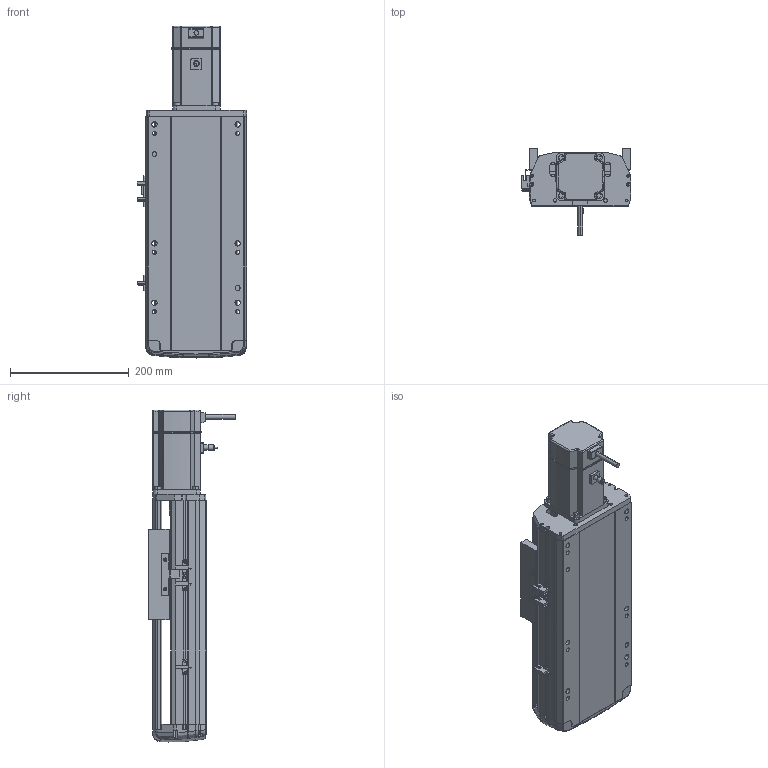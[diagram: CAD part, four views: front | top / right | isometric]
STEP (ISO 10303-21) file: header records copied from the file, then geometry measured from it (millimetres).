
FILE_DESCRIPTION (( 'STEP AP214' ), '1' );
FILE_NAME ('RTH17-XX-150-E-M75-C4.STEP', '2025-10-24T09:34:40', ( '' ), ( '' ), 'SwSTEP 2.0', 'SolidWorks 2018', '' );
FILE_SCHEMA (( 'AUTOMOTIVE_DESIGN' ));
Length unit declared in the file: millimetre
Products named in the file (9): N_OMRON EE-SX672 換覜ん^RTH17-XX-XX-E-M75-C4ㄗ源最宒ㄘ; RTH17-XX-150-E-M75-C4; N_RTH17-GY-001P^RTH17-XX-XX-E-M75-C4（方程式）; N_RTH-L-012 感应片(外置)^RTH17-XX-XX-E-M75-C4（方程式）; N_RTH17-E-008-P75电机板^RTH17-XX-XX-E-M75-C4（方程式）; N_RTH17-E-007上盖^RTH17-XX-XX-E-M75-C4（方程式）; N_RTH17-E-004丝杆螺母连接座^RTH17-XX-XX-E-M75-C4（方程式）; N_M75^RTH17-XX-XX-E-M75-C4（方程式）; N_RTH17-E-011底座^RTH17-XX-XX-E-M75-C4（方程式）
Assembly tree (10 placements, depth 2):
  RTH17-XX-150-E-M75-C4
    N_RTH17-E-011底座^RTH17-XX-XX-E-M75-C4（方程式）
    N_RTH17-E-007上盖^RTH17-XX-XX-E-M75-C4（方程式）
    N_M75^RTH17-XX-XX-E-M75-C4（方程式）
    N_RTH17-E-008-P75电机板^RTH17-XX-XX-E-M75-C4（方程式）
    N_OMRON EE-SX672 換覜ん^RTH17-XX-XX-E-M75-C4ㄗ源最宒ㄘ  x3
    N_RTH-L-012 感应片(外置)^RTH17-XX-XX-E-M75-C4（方程式）
    N_RTH17-E-004丝杆螺母连接座^RTH17-XX-XX-E-M75-C4（方程式）
    N_RTH17-GY-001P^RTH17-XX-XX-E-M75-C4（方程式）
Bounding box: 183.5 x 145.7 x 558.27 mm (x, y, z)
Volume: 4361647.2 mm3; surface area: 601639.4 mm2
Topology: 9 solids, 11 shells, 1732 faces, 4767 edges, 3086 vertices
Faces by surface type: plane 818, cylinder 500, bspline 377, cone 28, torus 9
Entity records: 50230 total; most frequent: CARTESIAN_POINT 19901, ORIENTED_EDGE 6558, DIRECTION 5507, EDGE_CURVE 3283, VERTEX_POINT 2122, AXIS2_PLACEMENT_3D 1859, VECTOR 1789, LINE 1789
